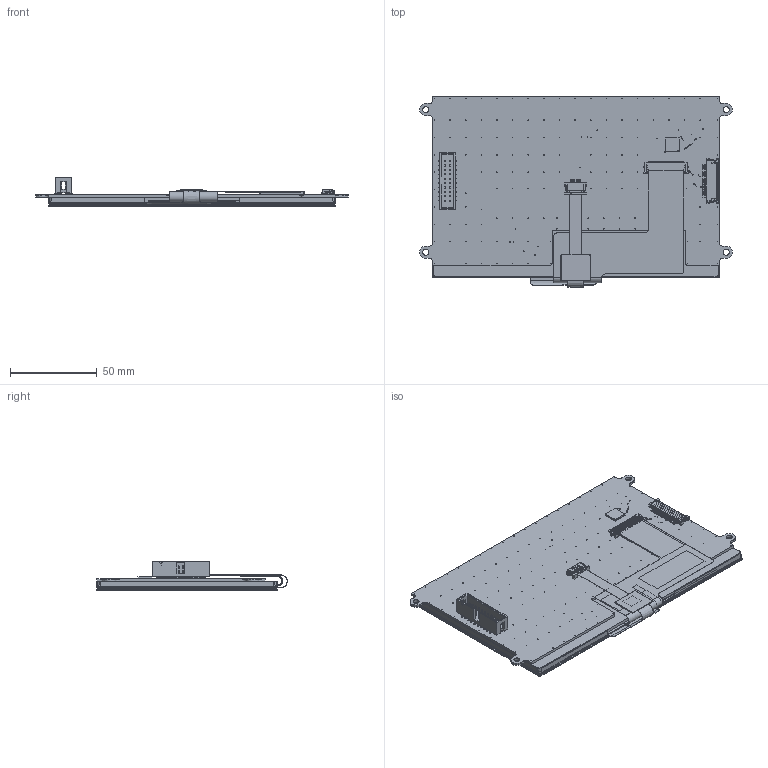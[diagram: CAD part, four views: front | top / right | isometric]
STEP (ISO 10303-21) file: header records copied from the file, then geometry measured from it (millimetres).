
FILE_DESCRIPTION (( 'STEP AP203' ), '1' );
FILE_NAME ('NHD-7.0-800480FT-CSXP-CTP.STEP', '2024-07-02T20:28:03', ( '' ), ( '' ), 'SwSTEP 2.0', 'SolidWorks 2019', '' );
FILE_SCHEMA (( 'CONFIG_CONTROL_DESIGN' ));
Products named in the file (2): NHD-7.0-800480FT-CSXP-CTP
Bounding box: 180.1 x 109.76 x 16.65 mm (x, y, z)
Volume: 102127.2 mm3; surface area: 234629.5 mm2
Topology: 19 solids, 19 shells, 5179 faces, 15339 edges, 9979 vertices
Faces by surface type: plane 4070, cylinder 994, cone 103, bspline 12
Entity records: 173028 total; most frequent: CARTESIAN_POINT 32423, ORIENTED_EDGE 30590, DIRECTION 27353, EDGE_CURVE 15295, VECTOR 12903, LINE 12903, VERTEX_POINT 9979, AXIS2_PLACEMENT_3D 7225
